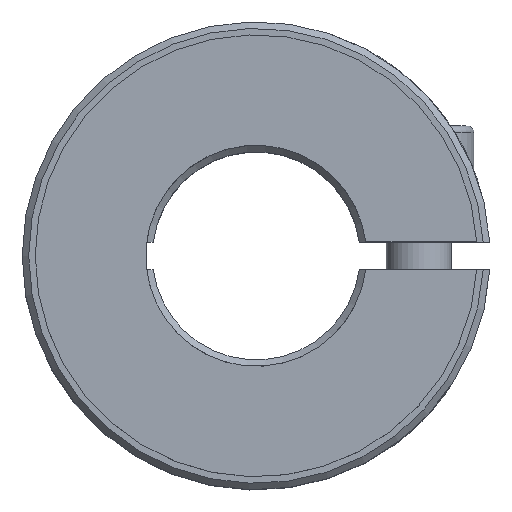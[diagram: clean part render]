
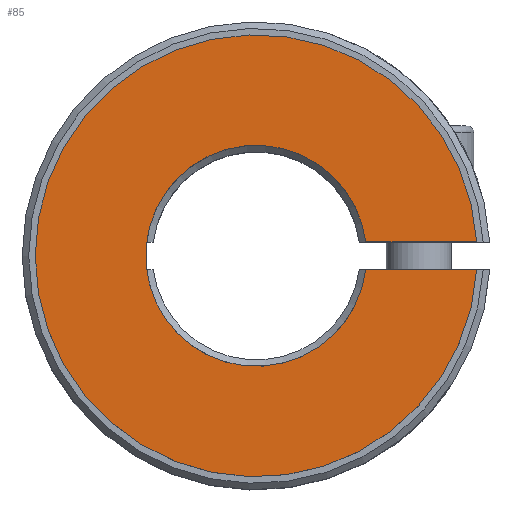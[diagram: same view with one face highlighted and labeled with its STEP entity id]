
A CAD part, top view. The second image highlights one B-rep face of the part: STEP entity #85.
In plain terms, the highlighted planar face has unit normal (0, 0, 1).
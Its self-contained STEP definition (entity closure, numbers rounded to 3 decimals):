
#85 = ADVANCED_FACE( '', ( #138 ), #139, .T. );
#138 = FACE_OUTER_BOUND( '', #232, .T. );
#139 = PLANE( '', #233 );
#232 = EDGE_LOOP( '', ( #384, #385, #386, #387 ) );
#233 = AXIS2_PLACEMENT_3D( '', #388, #389, #390 );
#384 = ORIENTED_EDGE( '', *, *, #632, .F. );
#385 = ORIENTED_EDGE( '', *, *, #638, .T. );
#386 = ORIENTED_EDGE( '', *, *, #634, .T. );
#387 = ORIENTED_EDGE( '', *, *, #639, .T. );
#388 = CARTESIAN_POINT( '', ( 0., 17., 8.5 ) );
#389 = DIRECTION( '', ( 0., 0., 1. ) );
#390 = DIRECTION( '', ( 1., 0., 0. ) );
#632 = EDGE_CURVE( '', #747, #749, #750, .T. );
#634 = EDGE_CURVE( '', #752, #753, #754, .T. );
#638 = EDGE_CURVE( '', #747, #752, #758, .T. );
#639 = EDGE_CURVE( '', #753, #749, #759, .T. );
#747 = VERTEX_POINT( '', #1008 );
#749 = VERTEX_POINT( '', #1011 );
#750 = CIRCLE( '', #1012, 17. );
#752 = VERTEX_POINT( '', #1015 );
#753 = VERTEX_POINT( '', #1016 );
#754 = CIRCLE( '', #1017, 8.5 );
#758 = LINE( '', #1023, #1024 );
#759 = LINE( '', #1025, #1026 );
#1008 = CARTESIAN_POINT( '', ( 16.966, -1.08, 8.5 ) );
#1011 = CARTESIAN_POINT( '', ( 16.966, 1.08, 8.5 ) );
#1012 = AXIS2_PLACEMENT_3D( '', #1228, #1229, #1230 );
#1015 = CARTESIAN_POINT( '', ( 8.431, -1.08, 8.5 ) );
#1016 = CARTESIAN_POINT( '', ( 8.431, 1.08, 8.5 ) );
#1017 = AXIS2_PLACEMENT_3D( '', #1232, #1233, #1234 );
#1023 = CARTESIAN_POINT( '', ( 0., -1.08, 8.5 ) );
#1024 = VECTOR( '', #1240, 1000. );
#1025 = CARTESIAN_POINT( '', ( 0., 1.08, 8.5 ) );
#1026 = VECTOR( '', #1241, 1000. );
#1228 = CARTESIAN_POINT( '', ( 0., 0., 8.5 ) );
#1229 = DIRECTION( '', ( 0., 0., -1. ) );
#1230 = DIRECTION( '', ( -1., 0., 0. ) );
#1232 = CARTESIAN_POINT( '', ( 0., 0., 8.5 ) );
#1233 = DIRECTION( '', ( 0., 0., -1. ) );
#1234 = DIRECTION( '', ( -1., 0., 0. ) );
#1240 = DIRECTION( '', ( -1., 0., 0. ) );
#1241 = DIRECTION( '', ( 1., 0., 0. ) );
